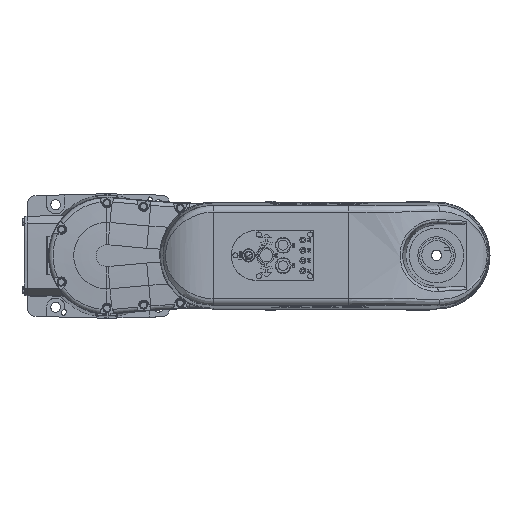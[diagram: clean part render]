
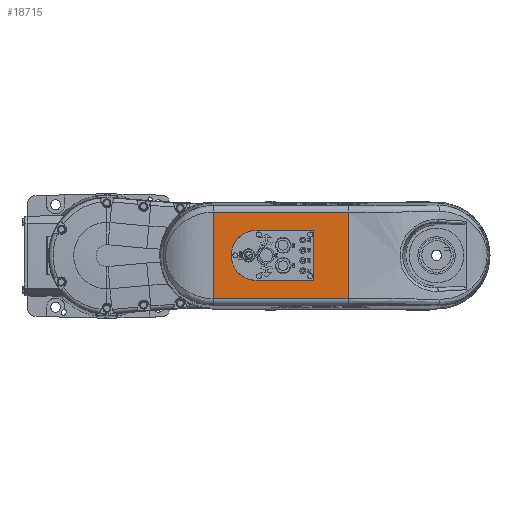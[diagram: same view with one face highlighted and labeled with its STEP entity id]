
A CAD part, top view. The second image highlights one B-rep face of the part: STEP entity #18715.
In plain terms, the highlighted planar face has unit normal (0, 0, 1).
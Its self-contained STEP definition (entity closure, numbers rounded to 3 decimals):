
#496 = EDGE_CURVE ( 'NONE', #1016, #71181, #77682, .T. ) ;
#1016 = VERTEX_POINT ( 'NONE', #32464 ) ;
#2469 = LINE ( 'NONE', #80323, #5710 ) ;
#2862 = DIRECTION ( 'NONE',  ( 0., 1., 0. ) ) ;
#3277 = CARTESIAN_POINT ( 'NONE',  ( 280.501, 34., 457.7 ) ) ;
#4454 = EDGE_LOOP ( 'NONE', ( #48555, #63754, #76383, #64235 ) ) ;
#4880 = CARTESIAN_POINT ( 'NONE',  ( 282.5, -32.001, 457.7 ) ) ;
#5710 = VECTOR ( 'NONE', #2862, 1000. ) ;
#13038 = EDGE_CURVE ( 'NONE', #45590, #85479, #58562, .T. ) ;
#13817 = VERTEX_POINT ( 'NONE', #4880 ) ;
#15477 = EDGE_CURVE ( 'NONE', #1016, #72334, #22271, .T. ) ;
#15620 = ORIENTED_EDGE ( 'NONE', *, *, #83462, .F. ) ;
#16097 = CARTESIAN_POINT ( 'NONE',  ( 282.5, 32.001, 457.7 ) ) ;
#16105 = CARTESIAN_POINT ( 'NONE',  ( 145., 0., 457.7 ) ) ;
#16514 = DIRECTION ( 'NONE',  ( 1., 0., 0. ) ) ;
#17205 = VECTOR ( 'NONE', #78676, 1000. ) ;
#17214 = EDGE_CURVE ( 'NONE', #13817, #61925, #76352, .T. ) ;
#18715 = ADVANCED_FACE ( 'NONE', ( #69854, #46843 ), #64755, .T. ) ;
#18928 = VECTOR ( 'NONE', #44216, 1000. ) ;
#19099 = CARTESIAN_POINT ( 'NONE',  ( 330., -59.156, 457.7 ) ) ;
#19129 = ORIENTED_EDGE ( 'NONE', *, *, #55821, .F. ) ;
#22271 = LINE ( 'NONE', #59535, #18928 ) ;
#22650 = DIRECTION ( 'NONE',  ( 0., 0., 1. ) ) ;
#24803 = ORIENTED_EDGE ( 'NONE', *, *, #75021, .F. ) ;
#25878 = CARTESIAN_POINT ( 'NONE',  ( 145., 59.156, 457.7 ) ) ;
#29073 = CARTESIAN_POINT ( 'NONE',  ( 282.5, 34., 457.7 ) ) ;
#30727 = VECTOR ( 'NONE', #74677, 1000. ) ;
#32464 = CARTESIAN_POINT ( 'NONE',  ( 145., -59.156, 457.7 ) ) ;
#33667 = CARTESIAN_POINT ( 'NONE',  ( 281.672, -34., 457.7 ) ) ;
#34816 = LINE ( 'NONE', #50761, #51339 ) ;
#35395 = CARTESIAN_POINT ( 'NONE',  ( 203.5, 0., 457.7 ) ) ;
#35727 = CARTESIAN_POINT ( 'NONE',  ( 145., -705.242, 457.7 ) ) ;
#36332 = LINE ( 'NONE', #37070, #87933 ) ;
#36739 = AXIS2_PLACEMENT_3D ( 'NONE', #16105, #22650, #44164 ) ;
#37070 = CARTESIAN_POINT ( 'NONE',  ( 282.5, 34., 457.7 ) ) ;
#37376 = DIRECTION ( 'NONE',  ( -1., 0., 0. ) ) ;
#43831 = DIRECTION ( 'NONE',  ( 0., 1., 0. ) ) ;
#44164 = DIRECTION ( 'NONE',  ( 0., -1., 0. ) ) ;
#44216 = DIRECTION ( 'NONE',  ( 1., 0., 0. ) ) ;
#45590 = VERTEX_POINT ( 'NONE', #88980 ) ;
#46843 = FACE_BOUND ( 'NONE', #85262, .T. ) ;
#48106 = VERTEX_POINT ( 'NONE', #73679 ) ;
#48555 = ORIENTED_EDGE ( 'NONE', *, *, #86669, .T. ) ;
#49196 = ORIENTED_EDGE ( 'NONE', *, *, #72030, .F. ) ;
#49263 = DIRECTION ( 'NONE',  ( 0., 0., 1. ) ) ;
#49451 = LINE ( 'NONE', #25878, #30727 ) ;
#50761 = CARTESIAN_POINT ( 'NONE',  ( 282.5, -34., 457.7 ) ) ;
#51339 = VECTOR ( 'NONE', #16514, 1000. ) ;
#51980 = CARTESIAN_POINT ( 'NONE',  ( 282.5, 32.001, 457.7 ) ) ;
#53992 = CARTESIAN_POINT ( 'NONE',  ( 282.5, -33.172, 457.7 ) ) ;
#55821 = EDGE_CURVE ( 'NONE', #48106, #88301, #82362, .T. ) ;
#57176 = VERTEX_POINT ( 'NONE', #69229 ) ;
#58562 =( BOUNDED_CURVE ( )  B_SPLINE_CURVE ( 3, ( #3277, #87511, #81050, #51980 ),
 .UNSPECIFIED., .F., .F. ) 
 B_SPLINE_CURVE_WITH_KNOTS ( ( 4, 4 ),
 ( 2.357, 3.927 ),
 .UNSPECIFIED. ) 
 CURVE ( )  GEOMETRIC_REPRESENTATION_ITEM ( )  RATIONAL_B_SPLINE_CURVE ( ( 1., 0.805, 0.805, 1. ) ) 
 REPRESENTATION_ITEM ( '' )  );
#59535 = CARTESIAN_POINT ( 'NONE',  ( 330., -59.156, 457.7 ) ) ;
#61925 = VERTEX_POINT ( 'NONE', #64376 ) ;
#62337 = ORIENTED_EDGE ( 'NONE', *, *, #17214, .T. ) ;
#63754 = ORIENTED_EDGE ( 'NONE', *, *, #63789, .T. ) ;
#63789 = EDGE_CURVE ( 'NONE', #57176, #71181, #49451, .T. ) ;
#64235 = ORIENTED_EDGE ( 'NONE', *, *, #15477, .T. ) ;
#64376 = CARTESIAN_POINT ( 'NONE',  ( 280.501, -34., 457.7 ) ) ;
#64755 = PLANE ( 'NONE',  #36739 ) ;
#68346 = CARTESIAN_POINT ( 'NONE',  ( 282.5, -32.001, 457.7 ) ) ;
#69229 = CARTESIAN_POINT ( 'NONE',  ( 330., 59.156, 457.7 ) ) ;
#69541 = LINE ( 'NONE', #29073, #73948 ) ;
#69854 = FACE_OUTER_BOUND ( 'NONE', #4454, .T. ) ;
#71181 = VERTEX_POINT ( 'NONE', #89268 ) ;
#72030 = EDGE_CURVE ( 'NONE', #13817, #85479, #69541, .T. ) ;
#72334 = VERTEX_POINT ( 'NONE', #19099 ) ;
#73031 = AXIS2_PLACEMENT_3D ( 'NONE', #35395, #49263, #83606 ) ;
#73679 = CARTESIAN_POINT ( 'NONE',  ( 203.5, 34., 457.7 ) ) ;
#73948 = VECTOR ( 'NONE', #43831, 1000. ) ;
#74677 = DIRECTION ( 'NONE',  ( -1., 0., 0. ) ) ;
#75021 = EDGE_CURVE ( 'NONE', #45590, #48106, #36332, .T. ) ;
#76352 =( BOUNDED_CURVE ( )  B_SPLINE_CURVE ( 3, ( #68346, #53992, #33667, #89845 ),
 .UNSPECIFIED., .F., .F. ) 
 B_SPLINE_CURVE_WITH_KNOTS ( ( 4, 4 ),
 ( 2.357, 3.927 ),
 .UNSPECIFIED. ) 
 CURVE ( )  GEOMETRIC_REPRESENTATION_ITEM ( )  RATIONAL_B_SPLINE_CURVE ( ( 1., 0.805, 0.805, 1. ) ) 
 REPRESENTATION_ITEM ( '' )  );
#76383 = ORIENTED_EDGE ( 'NONE', *, *, #496, .F. ) ;
#77682 = LINE ( 'NONE', #35727, #17205 ) ;
#78196 = CARTESIAN_POINT ( 'NONE',  ( 203.5, -34., 457.7 ) ) ;
#78676 = DIRECTION ( 'NONE',  ( 0., 1., 0. ) ) ;
#80323 = CARTESIAN_POINT ( 'NONE',  ( 330., -705.455, 457.7 ) ) ;
#81050 = CARTESIAN_POINT ( 'NONE',  ( 282.5, 33.172, 457.7 ) ) ;
#82362 = CIRCLE ( 'NONE', #73031, 34. ) ;
#83462 = EDGE_CURVE ( 'NONE', #88301, #61925, #34816, .T. ) ;
#83606 = DIRECTION ( 'NONE',  ( 0., 1., 0. ) ) ;
#85262 = EDGE_LOOP ( 'NONE', ( #24803, #86688, #49196, #62337, #15620, #19129 ) ) ;
#85479 = VERTEX_POINT ( 'NONE', #16097 ) ;
#86669 = EDGE_CURVE ( 'NONE', #72334, #57176, #2469, .T. ) ;
#86688 = ORIENTED_EDGE ( 'NONE', *, *, #13038, .T. ) ;
#87511 = CARTESIAN_POINT ( 'NONE',  ( 281.672, 34., 457.7 ) ) ;
#87933 = VECTOR ( 'NONE', #37376, 1000. ) ;
#88301 = VERTEX_POINT ( 'NONE', #78196 ) ;
#88980 = CARTESIAN_POINT ( 'NONE',  ( 280.501, 34., 457.7 ) ) ;
#89268 = CARTESIAN_POINT ( 'NONE',  ( 145., 59.156, 457.7 ) ) ;
#89845 = CARTESIAN_POINT ( 'NONE',  ( 280.501, -34., 457.7 ) ) ;
